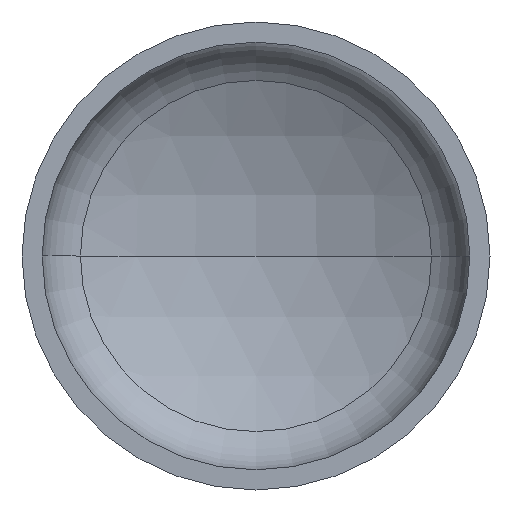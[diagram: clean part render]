
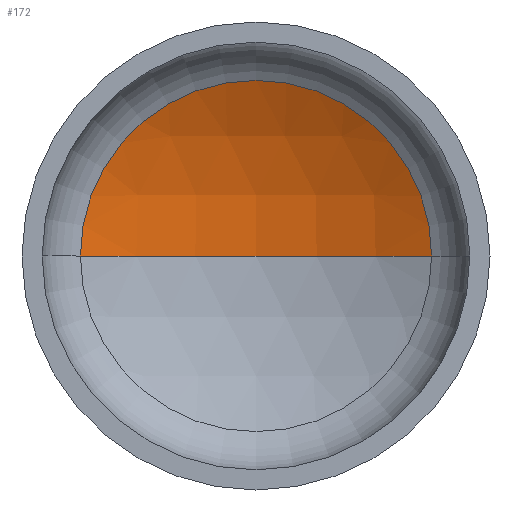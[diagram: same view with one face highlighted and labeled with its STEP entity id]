
A CAD part, front view. The second image highlights one B-rep face of the part: STEP entity #172.
In plain terms, the highlighted spherical face has radius 2080 mm.
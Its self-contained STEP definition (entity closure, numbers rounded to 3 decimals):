
#5 = AXIS2_PLACEMENT_3D ( 'NONE', #161, #163, #288 ) ;
#7 = AXIS2_PLACEMENT_3D ( 'NONE', #378, #118, #144 ) ;
#23 = AXIS2_PLACEMENT_3D ( 'NONE', #310, #176, #333 ) ;
#32 = AXIS2_PLACEMENT_3D ( 'NONE', #239, #308, #380 ) ;
#35 = VERTEX_POINT ( 'NONE', #295 ) ;
#56 = EDGE_LOOP ( 'NONE', ( #135, #95, #77 ) ) ;
#77 = ORIENTED_EDGE ( 'NONE', *, *, #365, .T. ) ;
#95 = ORIENTED_EDGE ( 'NONE', *, *, #371, .T. ) ;
#97 = VERTEX_POINT ( 'NONE', #202 ) ;
#118 = DIRECTION ( 'NONE',  ( 0., -1., 0. ) ) ;
#135 = ORIENTED_EDGE ( 'NONE', *, *, #346, .F. ) ;
#144 = DIRECTION ( 'NONE',  ( 1., 0., 0. ) ) ;
#160 = VERTEX_POINT ( 'NONE', #299 ) ;
#161 = CARTESIAN_POINT ( 'NONE',  ( 0., -1408.73, 0. ) ) ;
#163 = DIRECTION ( 'NONE',  ( 0., 0., -1. ) ) ;
#170 = CIRCLE ( 'NONE', #7, 975.619 ) ;
#172 = ADVANCED_FACE ( 'NONE', ( #382 ), #263, .F. ) ;
#176 = DIRECTION ( 'NONE',  ( 0., 0., 1. ) ) ;
#202 = CARTESIAN_POINT ( 'NONE',  ( -975.619, 428.269, 0. ) ) ;
#234 = CIRCLE ( 'NONE', #5, 2080. ) ;
#239 = CARTESIAN_POINT ( 'NONE',  ( 0., -1408.73, 0. ) ) ;
#241 = CIRCLE ( 'NONE', #23, 2080. ) ;
#263 = SPHERICAL_SURFACE ( 'NONE', #32, 2080. ) ;
#288 = DIRECTION ( 'NONE',  ( -1., 0., 0. ) ) ;
#295 = CARTESIAN_POINT ( 'NONE',  ( 975.619, 428.269, 0. ) ) ;
#299 = CARTESIAN_POINT ( 'NONE',  ( 0., 671.27, 0. ) ) ;
#308 = DIRECTION ( 'NONE',  ( 0., 0., -1. ) ) ;
#310 = CARTESIAN_POINT ( 'NONE',  ( 0., -1408.73, 0. ) ) ;
#333 = DIRECTION ( 'NONE',  ( 1., 0., 0. ) ) ;
#346 = EDGE_CURVE ( 'NONE', #160, #97, #241, .T. ) ;
#365 = EDGE_CURVE ( 'NONE', #35, #97, #170, .T. ) ;
#371 = EDGE_CURVE ( 'NONE', #160, #35, #234, .T. ) ;
#378 = CARTESIAN_POINT ( 'NONE',  ( 0., 428.269, 0. ) ) ;
#380 = DIRECTION ( 'NONE',  ( -1., 0., 0. ) ) ;
#382 = FACE_OUTER_BOUND ( 'NONE', #56, .T. ) ;
